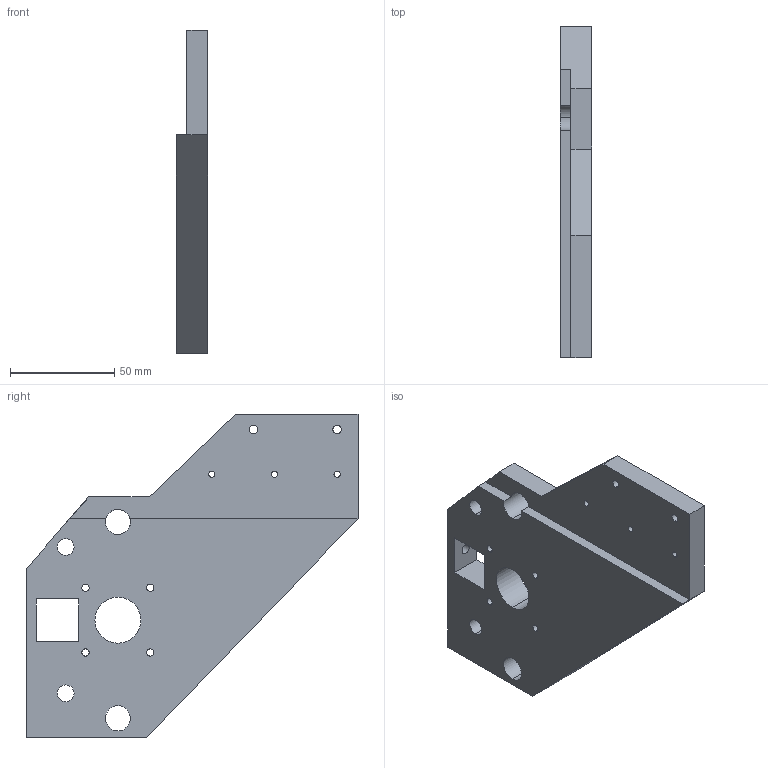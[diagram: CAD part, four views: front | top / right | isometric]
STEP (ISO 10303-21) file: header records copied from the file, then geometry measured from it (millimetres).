
FILE_DESCRIPTION (( 'STEP AP203' ), '1' );
FILE_NAME ('PORTALmotor 1LL.STEP', '2023-07-14T06:22:44', ( '' ), ( '' ), 'SwSTEP 2.0', 'SolidWorks 2014', '' );
FILE_SCHEMA (( 'CONFIG_CONTROL_DESIGN' ));
Length unit declared in the file: millimetre
Products named in the file (1): PORTALmotor 1LL
Bounding box: 15 x 158.93 x 154.83 mm (x, y, z)
Volume: 193106.4 mm3; surface area: 41977.8 mm2
Topology: 1 solids, 1 shells, 62 faces, 167 edges, 111 vertices
Faces by surface type: cylinder 40, plane 22
Entity records: 2126 total; most frequent: DIRECTION 375, CARTESIAN_POINT 341, ORIENTED_EDGE 334, EDGE_CURVE 167, AXIS2_PLACEMENT_3D 145, VERTEX_POINT 111, EDGE_LOOP 98, LINE 85
